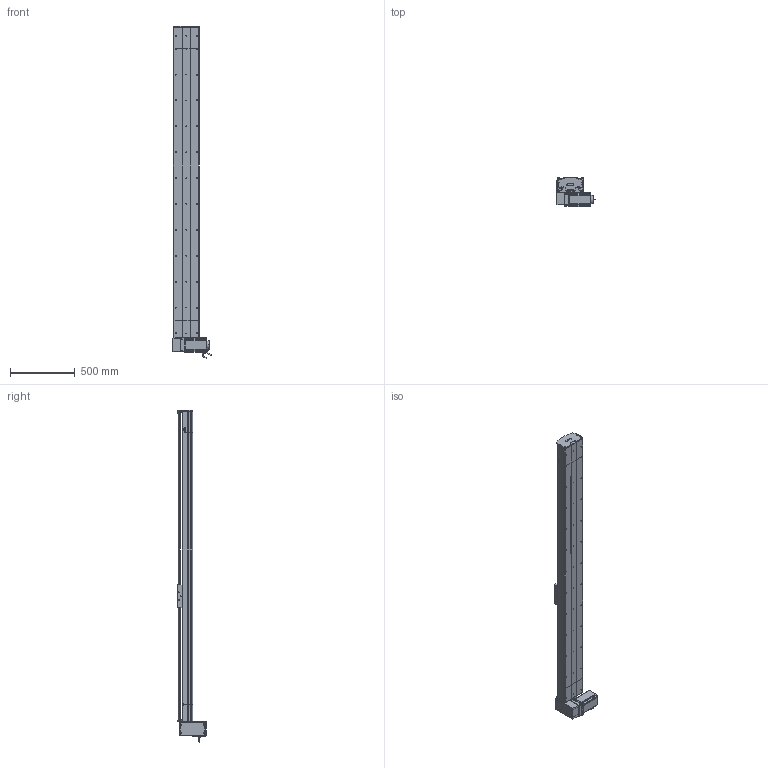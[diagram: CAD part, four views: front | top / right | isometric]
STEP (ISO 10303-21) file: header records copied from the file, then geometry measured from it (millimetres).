
FILE_DESCRIPTION (( 'STEP AP214' ), '1' );
FILE_NAME ('D20 TBH RU S2100.STEP', '2010-07-01T07:54:01', ( 'Conseil Régional Haute-Normandie' ), ( 'Conseil Régional Haute-Normandie' ), 'SwSTEP 2.0', 'SolidWorks 2010', '' );
FILE_SCHEMA (( 'AUTOMOTIVE_DESIGN' ));
Length unit declared in the file: millimetre
Products named in the file (40): rail head D20; Renvoi RU D20_Default; couroie_Default; cache D20_Default; vis M5 L5_Default; cache arbre D20_Default; plaque de  bout head D20B RU_Default; poulie head D20_Default; couvercle head D20_Default; vis M5 L25_Default; vis M5 L12_Default; tete d''axe poulie D20B; rail tail D20; vis M5 L8 90°_Default; couvercle tail D20_Default; Couroie tail D20_Default; plaque de  bout tail D20_Default; poulie tail D20_Default; corpl tail D20 +100_Default; tail D20+100_Default; vis M8 L12_Default; clavette; Conecteur_Default; Conecteur2_Default; codeur 110BLDC170A-630x; corps 110BLDC170A-630x; avant 110BLDC170A-630x; Moteur motionking 110BLDC170A-640x; vis M5 L70_Default; Plaque racord D20LH_Default; D20 TBH RU S2100; guide D20B; Chariot D20B; chariot D20B_Default; couvercle D20 S2100_Default; corp D20 S2100_Default; Course B L2100_Default; corpl head D20_Default; head RU_Default; rail + couroie  D20 S2100
Assembly tree (71 placements, depth 4):
  D20 TBH RU S2100
    tail D20+100_Default
      vis M5 L12_Default  x4
      plaque de  bout tail D20_Default
      vis M5 L8 90°_Default  x2
      rail tail D20
      vis M5 L25_Default  x2
      Couroie tail D20_Default
      poulie tail D20_Default
      couvercle tail D20_Default
      corpl tail D20 +100_Default
      tete d''axe poulie D20B
    Course B L2100_Default
      couvercle D20 S2100_Default
      corp D20 S2100_Default
      rail + couroie  D20 S2100
    chariot D20B_Default
      Chariot D20B
      vis M5 L12_Default  x4
      guide D20B  x2
    head RU_Default
      vis M8 L12_Default  x4
      poulie head D20_Default
      cache arbre D20_Default
      vis M5 L70_Default  x4
      vis M5 L5_Default  x4
      vis M5 L25_Default  x2
      cache D20_Default  x2
      plaque de  bout head D20B RU_Default
      Moteur motionking 110BLDC170A-640x
        clavette
        Conecteur_Default
        Conecteur2_Default
        codeur 110BLDC170A-630x
        corps 110BLDC170A-630x
        avant 110BLDC170A-630x
      vis M5 L12_Default  x10
      couvercle head D20_Default
      Plaque racord D20LH_Default
      rail head D20
      couroie_Default
      corpl head D20_Default
      Renvoi RU D20_Default
Bounding box: 304.2 x 223.2 x 2565 mm (x, y, z)
Volume: 20934224.6 mm3; surface area: 5064071.8 mm2
Topology: 95 solids, 95 shells, 2799 faces, 7125 edges, 4601 vertices
Faces by surface type: plane 1636, cylinder 839, bspline 136, cone 99, torus 89
Entity records: 89208 total; most frequent: CARTESIAN_POINT 28701, ORIENTED_EDGE 10906, DIRECTION 10278, EDGE_CURVE 5453, VERTEX_POINT 3587, VECTOR 3514, LINE 3514, AXIS2_PLACEMENT_3D 3382
